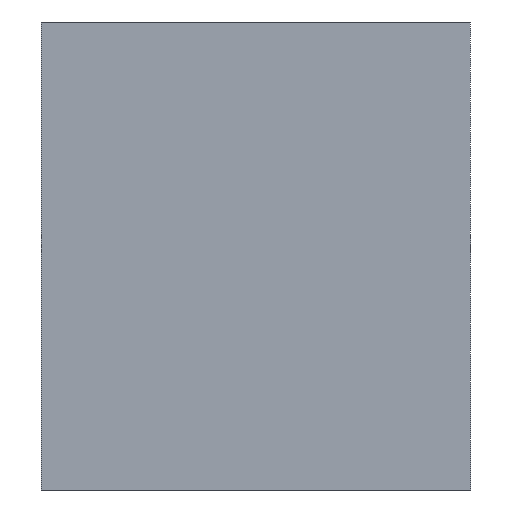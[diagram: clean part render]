
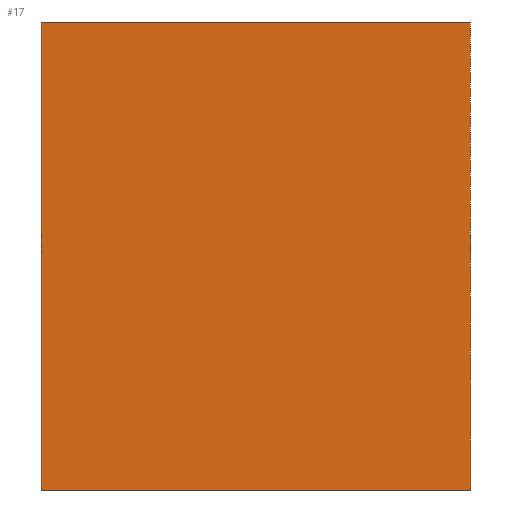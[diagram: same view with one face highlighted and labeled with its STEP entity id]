
A CAD part, left-side view. The second image highlights one B-rep face of the part: STEP entity #17.
In plain terms, the highlighted planar face has unit normal (-1, 0, 0).
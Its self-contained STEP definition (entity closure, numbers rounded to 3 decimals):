
#17 = ADVANCED_FACE('',(#18),#32,.F.);
#18 = FACE_BOUND('',#19,.F.);
#19 = EDGE_LOOP('',(#20,#55,#83,#111));
#20 = ORIENTED_EDGE('',*,*,#21,.F.);
#21 = EDGE_CURVE('',#22,#24,#26,.T.);
#22 = VERTEX_POINT('',#23);
#23 = CARTESIAN_POINT('',(127.,-67.,44.));
#24 = VERTEX_POINT('',#25);
#25 = CARTESIAN_POINT('',(127.,-67.,68.));
#26 = SURFACE_CURVE('',#27,(#31,#43),.PCURVE_S1.);
#27 = LINE('',#28,#29);
#28 = CARTESIAN_POINT('',(127.,-67.,44.));
#29 = VECTOR('',#30,1.);
#30 = DIRECTION('',(0.,0.,1.));
#31 = PCURVE('',#32,#37);
#32 = PLANE('',#33);
#33 = AXIS2_PLACEMENT_3D('',#34,#35,#36);
#34 = CARTESIAN_POINT('',(127.,-67.,44.));
#35 = DIRECTION('',(1.,0.,-0.));
#36 = DIRECTION('',(0.,0.,1.));
#37 = DEFINITIONAL_REPRESENTATION('',(#38),#42);
#38 = LINE('',#39,#40);
#39 = CARTESIAN_POINT('',(0.,0.));
#40 = VECTOR('',#41,1.);
#41 = DIRECTION('',(1.,0.));
#42 = ( GEOMETRIC_REPRESENTATION_CONTEXT(2) 
PARAMETRIC_REPRESENTATION_CONTEXT() REPRESENTATION_CONTEXT('2D SPACE',''
  ) );
#43 = PCURVE('',#44,#49);
#44 = PLANE('',#45);
#45 = AXIS2_PLACEMENT_3D('',#46,#47,#48);
#46 = CARTESIAN_POINT('',(127.,-67.,44.));
#47 = DIRECTION('',(-0.,1.,0.));
#48 = DIRECTION('',(0.,0.,1.));
#49 = DEFINITIONAL_REPRESENTATION('',(#50),#54);
#50 = LINE('',#51,#52);
#51 = CARTESIAN_POINT('',(0.,0.));
#52 = VECTOR('',#53,1.);
#53 = DIRECTION('',(1.,0.));
#54 = ( GEOMETRIC_REPRESENTATION_CONTEXT(2) 
PARAMETRIC_REPRESENTATION_CONTEXT() REPRESENTATION_CONTEXT('2D SPACE',''
  ) );
#55 = ORIENTED_EDGE('',*,*,#56,.T.);
#56 = EDGE_CURVE('',#22,#57,#59,.T.);
#57 = VERTEX_POINT('',#58);
#58 = CARTESIAN_POINT('',(127.,-45.,44.));
#59 = SURFACE_CURVE('',#60,(#64,#71),.PCURVE_S1.);
#60 = LINE('',#61,#62);
#61 = CARTESIAN_POINT('',(127.,-67.,44.));
#62 = VECTOR('',#63,1.);
#63 = DIRECTION('',(-0.,1.,0.));
#64 = PCURVE('',#32,#65);
#65 = DEFINITIONAL_REPRESENTATION('',(#66),#70);
#66 = LINE('',#67,#68);
#67 = CARTESIAN_POINT('',(0.,0.));
#68 = VECTOR('',#69,1.);
#69 = DIRECTION('',(0.,-1.));
#70 = ( GEOMETRIC_REPRESENTATION_CONTEXT(2) 
PARAMETRIC_REPRESENTATION_CONTEXT() REPRESENTATION_CONTEXT('2D SPACE',''
  ) );
#71 = PCURVE('',#72,#77);
#72 = PLANE('',#73);
#73 = AXIS2_PLACEMENT_3D('',#74,#75,#76);
#74 = CARTESIAN_POINT('',(127.,-67.,44.));
#75 = DIRECTION('',(0.,0.,1.));
#76 = DIRECTION('',(1.,0.,-0.));
#77 = DEFINITIONAL_REPRESENTATION('',(#78),#82);
#78 = LINE('',#79,#80);
#79 = CARTESIAN_POINT('',(0.,0.));
#80 = VECTOR('',#81,1.);
#81 = DIRECTION('',(0.,1.));
#82 = ( GEOMETRIC_REPRESENTATION_CONTEXT(2) 
PARAMETRIC_REPRESENTATION_CONTEXT() REPRESENTATION_CONTEXT('2D SPACE',''
  ) );
#83 = ORIENTED_EDGE('',*,*,#84,.T.);
#84 = EDGE_CURVE('',#57,#85,#87,.T.);
#85 = VERTEX_POINT('',#86);
#86 = CARTESIAN_POINT('',(127.,-45.,68.));
#87 = SURFACE_CURVE('',#88,(#92,#99),.PCURVE_S1.);
#88 = LINE('',#89,#90);
#89 = CARTESIAN_POINT('',(127.,-45.,44.));
#90 = VECTOR('',#91,1.);
#91 = DIRECTION('',(0.,0.,1.));
#92 = PCURVE('',#32,#93);
#93 = DEFINITIONAL_REPRESENTATION('',(#94),#98);
#94 = LINE('',#95,#96);
#95 = CARTESIAN_POINT('',(0.,-22.));
#96 = VECTOR('',#97,1.);
#97 = DIRECTION('',(1.,0.));
#98 = ( GEOMETRIC_REPRESENTATION_CONTEXT(2) 
PARAMETRIC_REPRESENTATION_CONTEXT() REPRESENTATION_CONTEXT('2D SPACE',''
  ) );
#99 = PCURVE('',#100,#105);
#100 = PLANE('',#101);
#101 = AXIS2_PLACEMENT_3D('',#102,#103,#104);
#102 = CARTESIAN_POINT('',(127.,-45.,44.));
#103 = DIRECTION('',(-0.,1.,0.));
#104 = DIRECTION('',(0.,0.,1.));
#105 = DEFINITIONAL_REPRESENTATION('',(#106),#110);
#106 = LINE('',#107,#108);
#107 = CARTESIAN_POINT('',(0.,0.));
#108 = VECTOR('',#109,1.);
#109 = DIRECTION('',(1.,0.));
#110 = ( GEOMETRIC_REPRESENTATION_CONTEXT(2) 
PARAMETRIC_REPRESENTATION_CONTEXT() REPRESENTATION_CONTEXT('2D SPACE',''
  ) );
#111 = ORIENTED_EDGE('',*,*,#112,.F.);
#112 = EDGE_CURVE('',#24,#85,#113,.T.);
#113 = SURFACE_CURVE('',#114,(#118,#125),.PCURVE_S1.);
#114 = LINE('',#115,#116);
#115 = CARTESIAN_POINT('',(127.,-67.,68.));
#116 = VECTOR('',#117,1.);
#117 = DIRECTION('',(-0.,1.,0.));
#118 = PCURVE('',#32,#119);
#119 = DEFINITIONAL_REPRESENTATION('',(#120),#124);
#120 = LINE('',#121,#122);
#121 = CARTESIAN_POINT('',(24.,0.));
#122 = VECTOR('',#123,1.);
#123 = DIRECTION('',(0.,-1.));
#124 = ( GEOMETRIC_REPRESENTATION_CONTEXT(2) 
PARAMETRIC_REPRESENTATION_CONTEXT() REPRESENTATION_CONTEXT('2D SPACE',''
  ) );
#125 = PCURVE('',#126,#131);
#126 = PLANE('',#127);
#127 = AXIS2_PLACEMENT_3D('',#128,#129,#130);
#128 = CARTESIAN_POINT('',(127.,-67.,68.));
#129 = DIRECTION('',(0.,0.,1.));
#130 = DIRECTION('',(1.,0.,-0.));
#131 = DEFINITIONAL_REPRESENTATION('',(#132),#136);
#132 = LINE('',#133,#134);
#133 = CARTESIAN_POINT('',(0.,0.));
#134 = VECTOR('',#135,1.);
#135 = DIRECTION('',(0.,1.));
#136 = ( GEOMETRIC_REPRESENTATION_CONTEXT(2) 
PARAMETRIC_REPRESENTATION_CONTEXT() REPRESENTATION_CONTEXT('2D SPACE',''
  ) );
